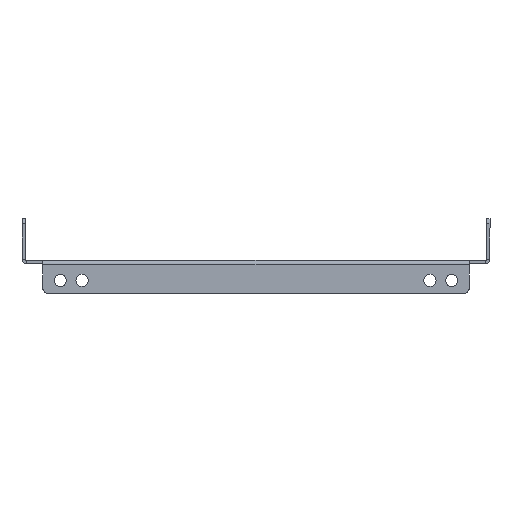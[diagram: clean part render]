
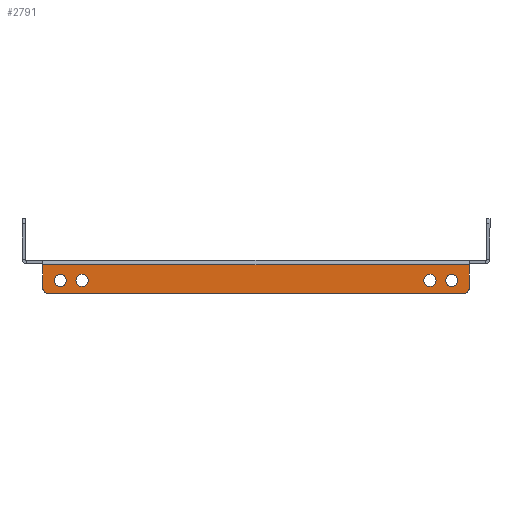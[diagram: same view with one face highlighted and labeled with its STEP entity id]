
A CAD part, left-side view. The second image highlights one B-rep face of the part: STEP entity #2791.
In plain terms, the highlighted planar face has unit normal (-1, 0, 0).
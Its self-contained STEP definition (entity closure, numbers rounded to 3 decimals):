
#12 = CARTESIAN_POINT ( 'NONE',  ( -100., -122.5, -0.6 ) ) ;
#64 = VERTEX_POINT ( 'NONE', #1927 ) ;
#70 = PLANE ( 'NONE',  #4291 ) ;
#92 = EDGE_CURVE ( 'NONE', #896, #4179, #1881, .T. ) ;
#99 = ORIENTED_EDGE ( 'NONE', *, *, #3398, .F. ) ;
#115 = DIRECTION ( 'NONE',  ( 0., 0., 1. ) ) ;
#142 = EDGE_CURVE ( 'NONE', #3565, #4179, #2912, .T. ) ;
#194 = DIRECTION ( 'NONE',  ( 0., 0., -1. ) ) ;
#212 = AXIS2_PLACEMENT_3D ( 'NONE', #378, #2707, #4115 ) ;
#268 = CARTESIAN_POINT ( 'NONE',  ( -100., -122.5, -17. ) ) ;
#269 = DIRECTION ( 'NONE',  ( 0., 0., 1. ) ) ;
#271 = EDGE_LOOP ( 'NONE', ( #3658, #1936 ) ) ;
#368 = VERTEX_POINT ( 'NONE', #3797 ) ;
#374 = CIRCLE ( 'NONE', #2133, 3.5 ) ;
#378 = CARTESIAN_POINT ( 'NONE',  ( -100., -119.5, -14. ) ) ;
#395 = CARTESIAN_POINT ( 'NONE',  ( -100., 112.5, -6. ) ) ;
#405 = DIRECTION ( 'NONE',  ( -1., 0., 0. ) ) ;
#443 = VERTEX_POINT ( 'NONE', #2830 ) ;
#454 = ORIENTED_EDGE ( 'NONE', *, *, #4032, .T. ) ;
#489 = DIRECTION ( 'NONE',  ( 0., 1., 0. ) ) ;
#526 = ORIENTED_EDGE ( 'NONE', *, *, #4275, .T. ) ;
#554 = DIRECTION ( 'NONE',  ( -1., 0., 0. ) ) ;
#560 = EDGE_CURVE ( 'NONE', #3753, #4035, #374, .T. ) ;
#570 = EDGE_CURVE ( 'NONE', #2522, #2389, #1432, .T. ) ;
#591 = LINE ( 'NONE', #268, #1005 ) ;
#646 = EDGE_CURVE ( 'NONE', #4035, #3753, #4169, .T. ) ;
#677 = DIRECTION ( 'NONE',  ( -1., 0., 0. ) ) ;
#733 = DIRECTION ( 'NONE',  ( -1., 0., 0. ) ) ;
#741 = CARTESIAN_POINT ( 'NONE',  ( -100., 122.5, 0. ) ) ;
#779 = CIRCLE ( 'NONE', #1699, 3.5 ) ;
#813 = CARTESIAN_POINT ( 'NONE',  ( -100., 122.5, -0.6 ) ) ;
#822 = EDGE_CURVE ( 'NONE', #443, #3642, #3321, .T. ) ;
#833 = CARTESIAN_POINT ( 'NONE',  ( -100., 112.5, -13. ) ) ;
#896 = VERTEX_POINT ( 'NONE', #12 ) ;
#904 = ORIENTED_EDGE ( 'NONE', *, *, #1454, .F. ) ;
#931 = LINE ( 'NONE', #1947, #1344 ) ;
#988 = CIRCLE ( 'NONE', #3434, 3.5 ) ;
#1005 = VECTOR ( 'NONE', #3955, 1000. ) ;
#1058 = ORIENTED_EDGE ( 'NONE', *, *, #822, .F. ) ;
#1068 = CARTESIAN_POINT ( 'NONE',  ( -100., -112.5, -9.5 ) ) ;
#1085 = EDGE_LOOP ( 'NONE', ( #3966, #99 ) ) ;
#1150 = VECTOR ( 'NONE', #489, 1000. ) ;
#1344 = VECTOR ( 'NONE', #4232, 1000. ) ;
#1357 = CARTESIAN_POINT ( 'NONE',  ( -100., -100., -13. ) ) ;
#1363 = DIRECTION ( 'NONE',  ( 0., 0., 1. ) ) ;
#1379 = CARTESIAN_POINT ( 'NONE',  ( -100., -112.5, -9.5 ) ) ;
#1409 = FACE_BOUND ( 'NONE', #271, .T. ) ;
#1432 = CIRCLE ( 'NONE', #2474, 3.5 ) ;
#1454 = EDGE_CURVE ( 'NONE', #3642, #443, #1670, .T. ) ;
#1579 = CARTESIAN_POINT ( 'NONE',  ( -100., 122.5, 0. ) ) ;
#1648 = VERTEX_POINT ( 'NONE', #2629 ) ;
#1670 = CIRCLE ( 'NONE', #2224, 3.5 ) ;
#1699 = AXIS2_PLACEMENT_3D ( 'NONE', #1068, #733, #3406 ) ;
#1727 = DIRECTION ( 'NONE',  ( 0., 0., -1. ) ) ;
#1798 = DIRECTION ( 'NONE',  ( 0., 0., 1. ) ) ;
#1881 = LINE ( 'NONE', #813, #1150 ) ;
#1927 = CARTESIAN_POINT ( 'NONE',  ( -100., -112.5, -6. ) ) ;
#1933 = ORIENTED_EDGE ( 'NONE', *, *, #2338, .F. ) ;
#1936 = ORIENTED_EDGE ( 'NONE', *, *, #3617, .F. ) ;
#1947 = CARTESIAN_POINT ( 'NONE',  ( -100., 122.5, -17. ) ) ;
#2045 = DIRECTION ( 'NONE',  ( -1., 0., 0. ) ) ;
#2061 = VECTOR ( 'NONE', #4254, 1000. ) ;
#2133 = AXIS2_PLACEMENT_3D ( 'NONE', #2140, #3215, #2888 ) ;
#2134 = FACE_OUTER_BOUND ( 'NONE', #2346, .T. ) ;
#2140 = CARTESIAN_POINT ( 'NONE',  ( -100., 112.5, -9.5 ) ) ;
#2192 = CIRCLE ( 'NONE', #3445, 3. ) ;
#2211 = DIRECTION ( 'NONE',  ( -1., 0., 0. ) ) ;
#2224 = AXIS2_PLACEMENT_3D ( 'NONE', #3741, #405, #1363 ) ;
#2251 = ORIENTED_EDGE ( 'NONE', *, *, #142, .F. ) ;
#2274 = CARTESIAN_POINT ( 'NONE',  ( -100., 112.5, -9.5 ) ) ;
#2316 = CARTESIAN_POINT ( 'NONE',  ( -100., -119.5, -17. ) ) ;
#2338 = EDGE_CURVE ( 'NONE', #3453, #1648, #931, .T. ) ;
#2346 = EDGE_LOOP ( 'NONE', ( #1933, #454, #2948, #3142, #2251, #526 ) ) ;
#2372 = CIRCLE ( 'NONE', #212, 3. ) ;
#2389 = VERTEX_POINT ( 'NONE', #1357 ) ;
#2474 = AXIS2_PLACEMENT_3D ( 'NONE', #4279, #554, #3900 ) ;
#2522 = VERTEX_POINT ( 'NONE', #3755 ) ;
#2555 = AXIS2_PLACEMENT_3D ( 'NONE', #3663, #677, #269 ) ;
#2629 = CARTESIAN_POINT ( 'NONE',  ( -100., 119.5, -17. ) ) ;
#2658 = CARTESIAN_POINT ( 'NONE',  ( -100., 119.5, -14. ) ) ;
#2687 = EDGE_LOOP ( 'NONE', ( #904, #1058 ) ) ;
#2707 = DIRECTION ( 'NONE',  ( -1., 0., 0. ) ) ;
#2714 = DIRECTION ( 'NONE',  ( -1., 0., 0. ) ) ;
#2745 = FACE_BOUND ( 'NONE', #1085, .T. ) ;
#2778 = CARTESIAN_POINT ( 'NONE',  ( -100., 122.5, -14. ) ) ;
#2791 = ADVANCED_FACE ( 'NONE', ( #1409, #2745, #4062, #4130, #2134 ), #70, .T. ) ;
#2830 = CARTESIAN_POINT ( 'NONE',  ( -100., 100., -13. ) ) ;
#2888 = DIRECTION ( 'NONE',  ( 0., 0., 1. ) ) ;
#2912 = LINE ( 'NONE', #1579, #2061 ) ;
#2948 = ORIENTED_EDGE ( 'NONE', *, *, #4250, .F. ) ;
#3063 = CARTESIAN_POINT ( 'NONE',  ( -100., 100., -6. ) ) ;
#3142 = ORIENTED_EDGE ( 'NONE', *, *, #92, .T. ) ;
#3198 = CARTESIAN_POINT ( 'NONE',  ( -100., -100., -9.5 ) ) ;
#3215 = DIRECTION ( 'NONE',  ( -1., 0., 0. ) ) ;
#3279 = DIRECTION ( 'NONE',  ( -1., 0., 0. ) ) ;
#3289 = DIRECTION ( 'NONE',  ( 0., 0., 1. ) ) ;
#3321 = CIRCLE ( 'NONE', #2555, 3.5 ) ;
#3398 = EDGE_CURVE ( 'NONE', #2389, #2522, #988, .T. ) ;
#3406 = DIRECTION ( 'NONE',  ( 0., 0., -1. ) ) ;
#3427 = CARTESIAN_POINT ( 'NONE',  ( -100., -122.5, -14. ) ) ;
#3434 = AXIS2_PLACEMENT_3D ( 'NONE', #3198, #2211, #194 ) ;
#3445 = AXIS2_PLACEMENT_3D ( 'NONE', #2658, #2045, #3289 ) ;
#3453 = VERTEX_POINT ( 'NONE', #2316 ) ;
#3501 = EDGE_LOOP ( 'NONE', ( #4327, #3511 ) ) ;
#3511 = ORIENTED_EDGE ( 'NONE', *, *, #560, .F. ) ;
#3565 = VERTEX_POINT ( 'NONE', #2778 ) ;
#3617 = EDGE_CURVE ( 'NONE', #368, #64, #779, .T. ) ;
#3622 = EDGE_CURVE ( 'NONE', #64, #368, #4295, .T. ) ;
#3642 = VERTEX_POINT ( 'NONE', #3063 ) ;
#3658 = ORIENTED_EDGE ( 'NONE', *, *, #3622, .F. ) ;
#3663 = CARTESIAN_POINT ( 'NONE',  ( -100., 100., -9.5 ) ) ;
#3697 = VERTEX_POINT ( 'NONE', #3427 ) ;
#3741 = CARTESIAN_POINT ( 'NONE',  ( -100., 100., -9.5 ) ) ;
#3742 = AXIS2_PLACEMENT_3D ( 'NONE', #2274, #3279, #1798 ) ;
#3753 = VERTEX_POINT ( 'NONE', #833 ) ;
#3755 = CARTESIAN_POINT ( 'NONE',  ( -100., -100., -6. ) ) ;
#3797 = CARTESIAN_POINT ( 'NONE',  ( -100., -112.5, -13. ) ) ;
#3900 = DIRECTION ( 'NONE',  ( 0., 0., -1. ) ) ;
#3955 = DIRECTION ( 'NONE',  ( 0., 0., -1. ) ) ;
#3966 = ORIENTED_EDGE ( 'NONE', *, *, #570, .F. ) ;
#4032 = EDGE_CURVE ( 'NONE', #3453, #3697, #2372, .T. ) ;
#4035 = VERTEX_POINT ( 'NONE', #395 ) ;
#4062 = FACE_BOUND ( 'NONE', #2687, .T. ) ;
#4080 = AXIS2_PLACEMENT_3D ( 'NONE', #1379, #2714, #1727 ) ;
#4085 = DIRECTION ( 'NONE',  ( -1., 0., 0. ) ) ;
#4115 = DIRECTION ( 'NONE',  ( 0., 0., 1. ) ) ;
#4130 = FACE_BOUND ( 'NONE', #3501, .T. ) ;
#4169 = CIRCLE ( 'NONE', #3742, 3.5 ) ;
#4179 = VERTEX_POINT ( 'NONE', #4266 ) ;
#4232 = DIRECTION ( 'NONE',  ( 0., 1., 0. ) ) ;
#4250 = EDGE_CURVE ( 'NONE', #896, #3697, #591, .T. ) ;
#4254 = DIRECTION ( 'NONE',  ( 0., 0., 1. ) ) ;
#4266 = CARTESIAN_POINT ( 'NONE',  ( -100., 122.5, -0.6 ) ) ;
#4275 = EDGE_CURVE ( 'NONE', #3565, #1648, #2192, .T. ) ;
#4279 = CARTESIAN_POINT ( 'NONE',  ( -100., -100., -9.5 ) ) ;
#4291 = AXIS2_PLACEMENT_3D ( 'NONE', #741, #4085, #115 ) ;
#4295 = CIRCLE ( 'NONE', #4080, 3.5 ) ;
#4327 = ORIENTED_EDGE ( 'NONE', *, *, #646, .F. ) ;
